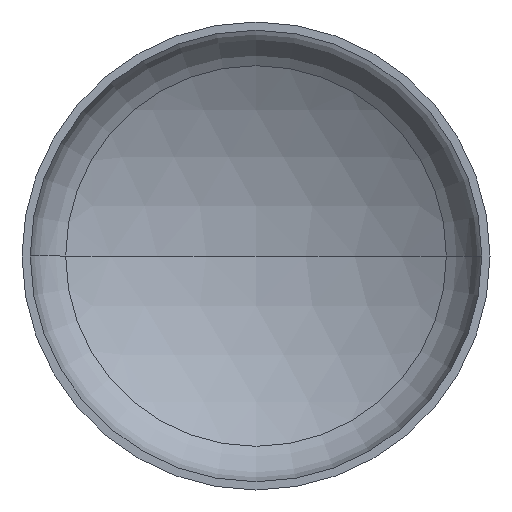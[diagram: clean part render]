
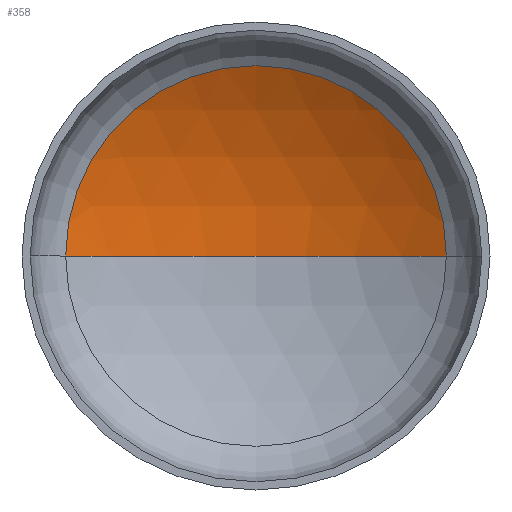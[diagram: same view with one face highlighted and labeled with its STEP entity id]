
A CAD part, front view. The second image highlights one B-rep face of the part: STEP entity #358.
In plain terms, the highlighted spherical face has radius 2080 mm.
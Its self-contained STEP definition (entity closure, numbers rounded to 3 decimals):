
#2 = AXIS2_PLACEMENT_3D ( 'NONE', #173, #335, #196 ) ;
#6 = AXIS2_PLACEMENT_3D ( 'NONE', #53, #376, #333 ) ;
#10 = ORIENTED_EDGE ( 'NONE', *, *, #344, .T. ) ;
#13 = AXIS2_PLACEMENT_3D ( 'NONE', #330, #190, #357 ) ;
#15 = AXIS2_PLACEMENT_3D ( 'NONE', #215, #375, #239 ) ;
#50 = VERTEX_POINT ( 'NONE', #219 ) ;
#53 = CARTESIAN_POINT ( 'NONE',  ( 0., -1306.749, 0. ) ) ;
#62 = VERTEX_POINT ( 'NONE', #257 ) ;
#89 = VERTEX_POINT ( 'NONE', #400 ) ;
#128 = ORIENTED_EDGE ( 'NONE', *, *, #341, .T. ) ;
#142 = ORIENTED_EDGE ( 'NONE', *, *, #386, .F. ) ;
#143 = EDGE_LOOP ( 'NONE', ( #142, #10, #128 ) ) ;
#173 = CARTESIAN_POINT ( 'NONE',  ( 0., -1306.749, 0. ) ) ;
#190 = DIRECTION ( 'NONE',  ( 0., 0., -1. ) ) ;
#196 = DIRECTION ( 'NONE',  ( 1., 0., 0. ) ) ;
#201 = CIRCLE ( 'NONE', #2, 2080. ) ;
#208 = SPHERICAL_SURFACE ( 'NONE', #6, 2080. ) ;
#215 = CARTESIAN_POINT ( 'NONE',  ( 0., 484.464, 0. ) ) ;
#216 = CIRCLE ( 'NONE', #13, 2080. ) ;
#219 = CARTESIAN_POINT ( 'NONE',  ( -1057.333, 484.464, 0. ) ) ;
#239 = DIRECTION ( 'NONE',  ( 1., 0., 0. ) ) ;
#257 = CARTESIAN_POINT ( 'NONE',  ( 0., 773.251, 0. ) ) ;
#330 = CARTESIAN_POINT ( 'NONE',  ( 0., -1306.749, 0. ) ) ;
#333 = DIRECTION ( 'NONE',  ( -1., 0., 0. ) ) ;
#335 = DIRECTION ( 'NONE',  ( 0., 0., 1. ) ) ;
#341 = EDGE_CURVE ( 'NONE', #89, #50, #342, .T. ) ;
#342 = CIRCLE ( 'NONE', #15, 1057.333 ) ;
#344 = EDGE_CURVE ( 'NONE', #62, #89, #216, .T. ) ;
#357 = DIRECTION ( 'NONE',  ( -1., 0., 0. ) ) ;
#358 = ADVANCED_FACE ( 'NONE', ( #392 ), #208, .F. ) ;
#375 = DIRECTION ( 'NONE',  ( 0., -1., 0. ) ) ;
#376 = DIRECTION ( 'NONE',  ( 0., 0., -1. ) ) ;
#386 = EDGE_CURVE ( 'NONE', #62, #50, #201, .T. ) ;
#392 = FACE_OUTER_BOUND ( 'NONE', #143, .T. ) ;
#400 = CARTESIAN_POINT ( 'NONE',  ( 1057.333, 484.464, 0. ) ) ;
